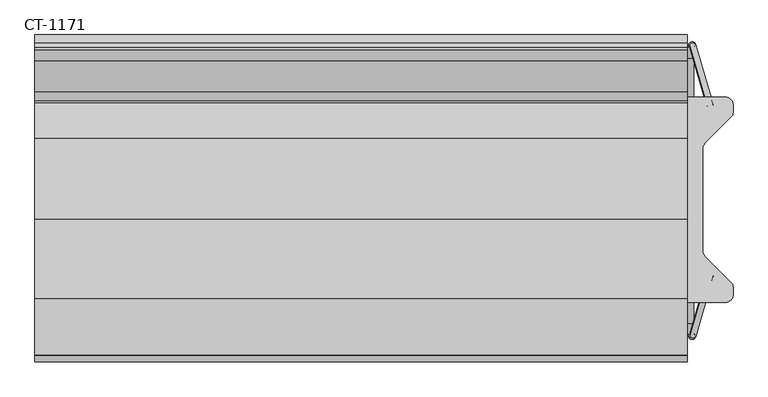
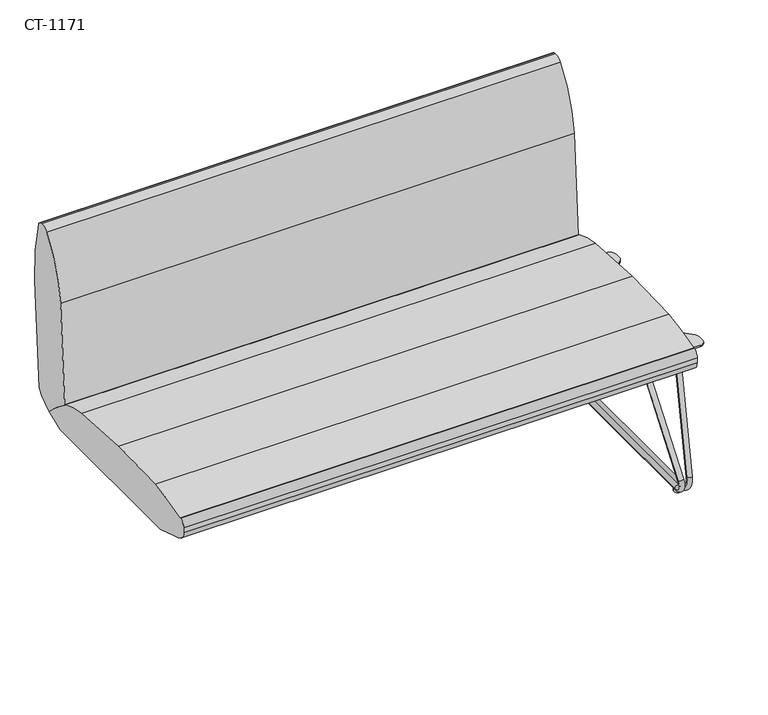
"""IFC4 building model written with IfcOpenShell, lengths in millimetres: furniture geometry, Davis_Furniture-Cantina-Low_Back_Straight : CT-1171."""

from ifc_helpers import new_model, si_unit, point, frame, frame_2d, origin, origin_with_axes, place, context, project, spatial, polyline, circle_curve, ellipse_curve, trimmed, segment, composite_curve, outline, extrude, source, transform, mapped, element, save
from ifc_brep_helpers import plane_surface, cylinder_surface, revolved_surface, advanced_brep


def ct_1171_189cd0db(model_context):
    return source(origin(), model_context, "Body", "SolidModel", [
        extrude(outline(composite_curve([segment(trimmed(circle_curve(frame_2d((709.0306813, 183.2173202)), 14.9820313), [point((709.0306813, 198.1993514))], [point((724.0127126, 183.2173202))], False, "CARTESIAN"), True, "CONTINUOUS"), segment(polyline([(724.0127126, 183.2173202), (724.0127126, 168.7877705)]), True, "CONTINUOUS"), segment(trimmed(circle_curve(frame_2d((710.0063569, 168.7877705)), 14.0063557), [point((724.0127126, 168.7877705))], [point((719.910346, 158.8837814))], False, "CARTESIAN"), True, "CONTINUOUS"), segment(polyline([(719.910346, 158.8837814), (669.3136664, 108.2871019)]), True, "CONTINUOUS"), segment(trimmed(circle_curve(frame_2d((679.6970876, 97.9036807)), 14.684375), [point((669.3136664, 108.2871019))], [point((665.0127126, 97.9036807))], True, "CARTESIAN"), True, "CONTINUOUS"), segment(polyline([(665.0127126, 97.9036807), (665.0127126, -101.5049781)]), True, "CONTINUOUS"), segment(trimmed(circle_curve(frame_2d((679.6970876, -101.5049781)), 14.684375), [point((665.0127126, -101.5049781))], [point((669.3136664, -111.8883992))], True, "CARTESIAN"), True, "CONTINUOUS"), segment(polyline([(669.3136664, -111.8883992), (719.910346, -162.4850787)]), True, "CONTINUOUS"), segment(trimmed(circle_curve(frame_2d((710.0063569, -172.3890678)), 14.0063557), [point((719.910346, -162.4850787))], [point((724.0127126, -172.3890678))], False, "CARTESIAN"), True, "CONTINUOUS"), segment(polyline([(724.0127126, -172.3890678), (724.0127126, -186.8186175)]), True, "CONTINUOUS"), segment(trimmed(circle_curve(frame_2d((709.0306813, -186.8186175)), 14.9820312), [point((724.0127126, -186.8186175))], [point((709.0306813, -201.8006488))], False, "CARTESIAN"), True, "CONTINUOUS"), segment(polyline([(709.0306813, -201.8006488), (560.9693187, -201.8006488)]), True, "CONTINUOUS"), segment(trimmed(circle_curve(frame_2d((560.9693187, -186.8440427)), 14.956606), [point((560.9693187, -201.8006488))], [point((546.0127127, -186.8440427))], False, "CARTESIAN"), True, "CONTINUOUS"), segment(polyline([(546.0127127, -186.8440427), (546.0127127, -172.3822284)]), True, "CONTINUOUS"), segment(trimmed(circle_curve(frame_2d((560.0025564, -172.3822284)), 13.9898438), [point((546.0127127, -172.3822284))], [point((550.110243, -162.489915))], False, "CARTESIAN"), True, "CONTINUOUS"), segment(polyline([(550.110243, -162.489915), (600.7117588, -111.8883992)]), True, "CONTINUOUS"), segment(trimmed(circle_curve(frame_2d((590.3283377, -101.5049781)), 14.684375), [point((600.7117588, -111.8883992))], [point((605.0127127, -101.5049781))], True, "CARTESIAN"), True, "CONTINUOUS"), segment(polyline([(605.0127127, -101.5049781), (605.0127127, 97.918921)]), True, "CONTINUOUS"), segment(trimmed(circle_curve(frame_2d((590.3651309, 97.918921)), 14.6475818), [point((605.0127127, 97.918921))], [point((600.7225353, 108.2763254))], True, "CARTESIAN"), True, "CONTINUOUS"), segment(polyline([(600.7225353, 108.2763254), (550.110243, 158.8886177)]), True, "CONTINUOUS"), segment(trimmed(circle_curve(frame_2d((560.0025564, 168.780931)), 13.9898437), [point((550.110243, 158.8886177))], [point((546.0127127, 168.780931))], False, "CARTESIAN"), True, "CONTINUOUS"), segment(polyline([(546.0127127, 168.780931), (546.0127127, 183.2427454)]), True, "CONTINUOUS"), segment(trimmed(circle_curve(frame_2d((560.9693187, 183.2427454)), 14.956606), [point((546.0127127, 183.2427454))], [point((560.9693187, 198.1993514))], False, "CARTESIAN"), True, "CONTINUOUS"), segment(polyline([(560.9693187, 198.1993514), (709.0306813, 198.1993514)]), True, "CONTINUOUS")], self_intersect=False)), frame((0.0, 0.0, 330.7277844), z_axis=(0.0, 0.0, 1.0), x_axis=(1.0, 0.0, 0.0)), (0.0, 0.0, 1.0), 3.1724353),
        advanced_brep(
        [(639.3476455, 298.4299122, 51.3019909), (651.7863293, 297.001732, 49.1737411), (686.3568189, 178.5251074, 330.7277844), (673.6568189, 180.8488451, 330.7277844), (634.9955294, 274.6441492, 15.8568497), (647.6955294, 274.6441492, 15.8568497), (634.9955294, -242.6856853, 15.8568497), (647.6955294, -242.6856853, 15.8568497), (639.3476455, -266.4714483, 51.3019909), (651.7863293, -265.0432681, 49.1737411), (673.6568189, -148.8903812, 330.7277844), (686.3568189, -146.5666435, 330.7277844)],
        [
            (0, 1, circle_curve(frame((645.5669874, 297.7158221, 50.237866), z_axis=(0.112455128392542, -0.3853952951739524, 0.9158735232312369), x_axis=(-0.9794239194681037, 0.11245512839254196, 0.16757872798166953)), 6.35)),
            (1, 2),
            (2, 3, ellipse_curve(frame((680.0068189, 179.6869762, 330.7277844), z_axis=(0.0, 0.0, -1.0), x_axis=(0.28011057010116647, -0.9599677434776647, 0.0)), 6.9332717, 6.35)),
            (3, 0),
            (1, 0, circle_curve(frame((645.5669874, 297.7158221, 50.237866), z_axis=(0.112455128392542, -0.3853952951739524, 0.9158735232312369), x_axis=(-0.9794239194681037, 0.11245512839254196, 0.16757872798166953)), 6.35)),
            (3, 2, ellipse_curve(frame((680.0068189, 179.6869762, 330.7277844), z_axis=(0.0, 0.0, -1.0), x_axis=(0.28011057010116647, -0.9599677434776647, 0.0)), 6.9332717, 6.35)),
            (0, 4, circle_curve(frame((638.1369549, 274.6441492, 41.4417072), z_axis=(-0.9925461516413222, 0.0, 0.12186934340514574), x_axis=(0.046967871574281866, 0.9227515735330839, 0.38252261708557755)), 25.7769953)),
            (4, 5, circle_curve(frame((641.3455294, 274.6441492, 15.8568497), z_axis=(0.0, 1.0, 0.0), x_axis=(-1.0, 0.0, 0.0)), 6.35)),
            (5, 1, circle_curve(frame((650.6483328, 274.6441492, 39.9055032), z_axis=(0.9925461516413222, 0.0, -0.12186934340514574), x_axis=(0.046967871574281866, 0.9227515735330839, 0.38252261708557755)), 24.2292547)),
            (5, 4, circle_curve(frame((641.3455294, 274.6441492, 15.8568497), z_axis=(0.0, 0.9999999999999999, 0.0), x_axis=(-1.0, 0.0, 0.0)), 6.35)),
            (4, 6),
            (6, 7, circle_curve(frame((641.3455294, -242.6856853, 15.8568497), z_axis=(0.0, 1.0, 0.0), x_axis=(-1.0, 0.0, 0.0)), 6.35)),
            (7, 5),
            (7, 6, circle_curve(frame((641.3455294, -242.6856853, 15.8568497), z_axis=(0.0, 1.0, 0.0), x_axis=(-1.0, 0.0, 0.0)), 6.35)),
            (6, 8, circle_curve(frame((638.1369549, -242.6856853, 41.4417072), z_axis=(-0.9925461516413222, 0.0, 0.12186934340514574), x_axis=(-0.12186934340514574, 0.0, -0.9925461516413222)), 25.7769953)),
            (8, 9, circle_curve(frame((645.5669874, -265.7573582, 50.237866), z_axis=(-0.11245512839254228, -0.3853952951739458, -0.9158735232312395), x_axis=(-0.9794239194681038, -0.1124551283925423, 0.16757872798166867)), 6.35)),
            (9, 7, circle_curve(frame((650.6483328, -242.6856853, 39.9055032), z_axis=(0.9925461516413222, 0.0, -0.12186934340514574), x_axis=(-0.12186934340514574, 0.0, -0.9925461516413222)), 24.2292547)),
            (9, 8, circle_curve(frame((645.5669874, -265.7573582, 50.237866), z_axis=(-0.11245512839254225, -0.3853952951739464, -0.9158735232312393), x_axis=(-0.9794239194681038, -0.11245512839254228, 0.16757872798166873)), 6.35)),
            (8, 10),
            (10, 11, ellipse_curve(frame((680.0068189, -147.7285123, 330.7277844), z_axis=(0.0, 0.0, -1.0), x_axis=(-0.28011057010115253, -0.9599677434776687, 0.0)), 6.9332717, 6.35)),
            (11, 9),
            (11, 10, ellipse_curve(frame((680.0068189, -147.7285123, 330.7277844), z_axis=(0.0, 0.0, -1.0), x_axis=(-0.28011057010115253, -0.9599677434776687, 0.0)), 6.9332717, 6.35)),
        ],
        [
            cylinder_surface(frame((681.1405198, 175.8016664, 339.9610379), z_axis=(0.112455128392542, -0.3853952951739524, 0.9158735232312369), x_axis=(-0.9794239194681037, 0.11245512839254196, 0.16757872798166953)), 6.35),
            revolved_surface(trimmed(ellipse_curve(frame((645.5669874, 297.7158221, 50.237866), z_axis=(0.11245512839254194, -0.38539529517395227, 0.9158735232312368), x_axis=(-0.9794239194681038, 0.112455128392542, 0.1675787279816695)), 6.35, 6.35), [point((639.3476455, 298.4299122, 51.3019909))], [point((651.7863293, 297.001732, 49.1737411))], True, "CARTESIAN"), (697.3582375, 274.6441492, 34.170248), (-0.9925461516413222, 0.0, 0.12186934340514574)),
            revolved_surface(trimmed(ellipse_curve(frame((645.5669874, 297.7158221, 50.237866), z_axis=(0.11245512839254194, -0.38539529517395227, 0.9158735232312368), x_axis=(-0.9794239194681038, 0.112455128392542, 0.1675787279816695)), 6.35, 6.35), [point((651.7863293, 297.001732, 49.1737411))], [point((639.3476455, 298.4299122, 51.3019909))], True, "CARTESIAN"), (697.3582375, 274.6441492, 34.170248), (-0.9925461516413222, 0.0, 0.12186934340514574)),
            cylinder_surface(frame((641.3455294, 274.6441492, 15.8568497), z_axis=(0.0, 1.0, 0.0), x_axis=(-1.0, 0.0, 0.0)), 6.35),
            revolved_surface(trimmed(ellipse_curve(frame((641.3455294, -242.6856853, 15.8568497), z_axis=(0.0, 1.0, 0.0), x_axis=(-1.0, 0.0, 0.0)), 6.35, 6.35), [point((634.9955294, -242.6856853, 15.8568497))], [point((647.6955294, -242.6856853, 15.8568497))], True, "CARTESIAN"), (697.3582375, -242.6856853, 34.170248), (-0.9925461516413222, 0.0, 0.12186934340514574)),
            revolved_surface(trimmed(ellipse_curve(frame((641.3455294, -242.6856853, 15.8568497), z_axis=(0.0, 1.0, 0.0), x_axis=(-1.0, 0.0, 0.0)), 6.35, 6.35), [point((647.6955294, -242.6856853, 15.8568497))], [point((634.9955294, -242.6856853, 15.8568497))], True, "CARTESIAN"), (697.3582375, -242.6856853, 34.170248), (-0.9925461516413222, 0.0, 0.12186934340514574)),
            cylinder_surface(frame((645.5669874, -265.7573582, 50.237866), z_axis=(-0.11245512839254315, -0.38539529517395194, -0.9158735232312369), x_axis=(-0.9794239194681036, -0.11245512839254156, 0.1675787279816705)), 6.35),
            plane_surface(frame((574.675, -168.170768, 330.7277844), z_axis=(0.0, 0.0, 1.0), x_axis=(0.0, 1.0, 0.0))),
        ],
        [
            (0, [[1, 2, 3, 4]]),
            (0, [[5, -4, 6, -2]]),
            (1, [[-1, 7, 8, 9]]),
            (2, [[-5, -9, 10, -7]]),
            (3, [[-8, 11, 12, 13]]),
            (3, [[-10, -13, 14, -11]]),
            (4, [[-12, 15, 16, 17]]),
            (5, [[-14, -17, 18, -15]]),
            (6, [[-16, 19, 20, 21]]),
            (6, [[-18, -21, 22, -19]]),
            (7, [[-3, -6]]),
            (7, [[-20, -22]]),
        ],
    ),
        advanced_brep(
        [(618.2136707, 297.001732, 49.1737411), (630.6523545, 298.4299122, 51.3019909), (596.3431811, 180.8488451, 330.7277844), (583.6431811, 178.5251074, 330.7277844), (622.3044706, 274.6441492, 15.8568497), (635.0044706, 274.6441492, 15.8568497), (622.3044706, -242.6856853, 15.8568497), (635.0044706, -242.6856853, 15.8568497), (618.2136707, -265.0432681, 49.1737411), (630.6523545, -266.4714483, 51.3019909), (583.6431811, -146.5666435, 330.7277844), (596.3431811, -148.8903812, 330.7277844)],
        [
            (0, 1, circle_curve(frame((624.4330126, 297.7158221, 50.237866), z_axis=(-0.11245512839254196, -0.38539529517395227, 0.915873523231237), x_axis=(0.9794239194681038, 0.11245512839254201, 0.1675787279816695)), 6.35)),
            (1, 2),
            (2, 3, ellipse_curve(frame((589.9931811, 179.6869762, 330.7277844), z_axis=(0.0, 0.0, -1.0), x_axis=(-0.28011057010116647, -0.9599677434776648, 0.0)), 6.9332717, 6.35)),
            (3, 0),
            (1, 0, circle_curve(frame((624.4330126, 297.7158221, 50.237866), z_axis=(-0.11245512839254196, -0.38539529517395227, 0.915873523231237), x_axis=(0.9794239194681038, 0.11245512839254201, 0.1675787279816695)), 6.35)),
            (3, 2, ellipse_curve(frame((589.9931811, 179.6869762, 330.7277844), z_axis=(0.0, 0.0, -1.0), x_axis=(-0.28011057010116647, -0.9599677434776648, 0.0)), 6.9332717, 6.35)),
            (0, 4, circle_curve(frame((619.3516672, 274.6441492, 39.9055032), z_axis=(-0.9925461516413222, 0.0, -0.12186934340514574), x_axis=(-0.046967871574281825, 0.9227515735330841, 0.38252261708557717)), 24.2292547)),
            (4, 5, circle_curve(frame((628.6544706, 274.6441492, 15.8568497), z_axis=(0.0, 1.0000000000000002, 0.0), x_axis=(1.0, 0.0, 0.0)), 6.35)),
            (5, 1, circle_curve(frame((631.8630451, 274.6441492, 41.4417072), z_axis=(0.9925461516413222, 0.0, 0.12186934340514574), x_axis=(-0.046967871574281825, 0.9227515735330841, 0.38252261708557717)), 25.7769953)),
            (5, 4, circle_curve(frame((628.6544706, 274.6441492, 15.8568497), z_axis=(0.0, 1.0000000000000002, 0.0), x_axis=(1.0, 0.0, 0.0)), 6.35)),
            (4, 6),
            (6, 7, circle_curve(frame((628.6544706, -242.6856853, 15.8568497), z_axis=(0.0, 1.0, 0.0), x_axis=(1.0, 0.0, 0.0)), 6.35)),
            (7, 5),
            (7, 6, circle_curve(frame((628.6544706, -242.6856853, 15.8568497), z_axis=(0.0, 1.0, 0.0), x_axis=(1.0, 0.0, 0.0)), 6.35)),
            (6, 8, circle_curve(frame((619.3516672, -242.6856853, 39.9055032), z_axis=(-0.9925461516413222, 0.0, -0.12186934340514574), x_axis=(0.12186934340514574, 0.0, -0.9925461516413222)), 24.2292547)),
            (8, 9, circle_curve(frame((624.4330126, -265.7573582, 50.237866), z_axis=(0.11245512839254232, -0.3853952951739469, -0.915873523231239), x_axis=(0.9794239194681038, -0.11245512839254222, 0.1675787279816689)), 6.35)),
            (9, 7, circle_curve(frame((631.8630451, -242.6856853, 41.4417072), z_axis=(0.9925461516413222, 0.0, 0.12186934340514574), x_axis=(0.12186934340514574, 0.0, -0.9925461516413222)), 25.7769953)),
            (9, 8, circle_curve(frame((624.4330126, -265.7573582, 50.237866), z_axis=(0.11245512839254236, -0.3853952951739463, -0.9158735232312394), x_axis=(0.9794239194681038, -0.11245512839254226, 0.1675787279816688)), 6.35)),
            (8, 10),
            (10, 11, ellipse_curve(frame((589.9931811, -147.7285123, 330.7277844), z_axis=(0.0, 0.0, -1.0), x_axis=(0.2801105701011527, -0.9599677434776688, 0.0)), 6.9332717, 6.35)),
            (11, 9),
            (11, 10, ellipse_curve(frame((589.9931811, -147.7285123, 330.7277844), z_axis=(0.0, 0.0, -1.0), x_axis=(0.2801105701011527, -0.9599677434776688, 0.0)), 6.9332717, 6.35)),
        ],
        [
            cylinder_surface(frame((588.8594802, 175.8016664, 339.9610379), z_axis=(-0.11245512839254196, -0.38539529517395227, 0.915873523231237), x_axis=(0.9794239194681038, 0.11245512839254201, 0.1675787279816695)), 6.35),
            revolved_surface(trimmed(ellipse_curve(frame((624.4330126, 297.7158221, 50.237866), z_axis=(-0.11245512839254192, -0.385395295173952, 0.9158735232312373), x_axis=(0.9794239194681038, 0.11245512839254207, 0.1675787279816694)), 6.35, 6.35), [point((618.2136707, 297.001732, 49.1737411))], [point((630.6523545, 298.4299122, 51.3019909))], True, "CARTESIAN"), (572.6417625, 274.6441492, 34.170248), (-0.9925461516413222, 0.0, -0.12186934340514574)),
            revolved_surface(trimmed(ellipse_curve(frame((624.4330126, 297.7158221, 50.237866), z_axis=(-0.11245512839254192, -0.385395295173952, 0.9158735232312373), x_axis=(0.9794239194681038, 0.11245512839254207, 0.1675787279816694)), 6.35, 6.35), [point((630.6523545, 298.4299122, 51.3019909))], [point((618.2136707, 297.001732, 49.1737411))], True, "CARTESIAN"), (572.6417625, 274.6441492, 34.170248), (-0.9925461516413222, 0.0, -0.12186934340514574)),
            cylinder_surface(frame((628.6544706, 274.6441492, 15.8568497), z_axis=(0.0, 1.0, 0.0), x_axis=(1.0, 0.0, 0.0)), 6.35),
            revolved_surface(trimmed(ellipse_curve(frame((628.6544706, -242.6856853, 15.8568497), z_axis=(0.0, 1.0, 0.0), x_axis=(1.0, 0.0, 0.0)), 6.35, 6.35), [point((622.3044706, -242.6856853, 15.8568497))], [point((635.0044706, -242.6856853, 15.8568497))], True, "CARTESIAN"), (572.6417625, -242.6856853, 34.170248), (-0.9925461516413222, 0.0, -0.12186934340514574)),
            revolved_surface(trimmed(ellipse_curve(frame((628.6544706, -242.6856853, 15.8568497), z_axis=(0.0, 1.0, 0.0), x_axis=(1.0, 0.0, 0.0)), 6.35, 6.35), [point((635.0044706, -242.6856853, 15.8568497))], [point((622.3044706, -242.6856853, 15.8568497))], True, "CARTESIAN"), (572.6417625, -242.6856853, 34.170248), (-0.9925461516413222, 0.0, -0.12186934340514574)),
            cylinder_surface(frame((624.4330126, -265.7573582, 50.237866), z_axis=(0.11245512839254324, -0.38539529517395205, -0.9158735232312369), x_axis=(0.9794239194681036, -0.11245512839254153, 0.16757872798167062)), 6.35),
            plane_surface(frame((574.675, -168.170768, 330.7277844), z_axis=(0.0, 0.0, 1.0), x_axis=(0.0, 1.0, 0.0))),
        ],
        [
            (0, [[1, 2, 3, 4]]),
            (0, [[5, -4, 6, -2]]),
            (1, [[-1, 7, 8, 9]]),
            (2, [[-5, -9, 10, -7]]),
            (3, [[-8, 11, 12, 13]]),
            (3, [[-10, -13, 14, -11]]),
            (4, [[-12, 15, 16, 17]]),
            (5, [[-14, -17, 18, -15]]),
            (6, [[-16, 19, 20, 21]]),
            (6, [[-18, -21, 22, -19]]),
            (7, [[-3, -6]]),
            (7, [[-20, -22]]),
        ],
    ),
        extrude(outline(composite_curve([segment(trimmed(circle_curve(frame_2d((635.0, -233.1061316)), 8.5328125), [point((626.4671875, -233.1061316))], [point((643.5328125, -233.1061316))], False, "CARTESIAN"), True, "CONTINUOUS"), segment(trimmed(circle_curve(frame_2d((635.0, -233.1061316)), 8.5328125), [point((643.5328125, -233.1061316))], [point((626.4671875, -233.1061316))], False, "CARTESIAN"), True, "CONTINUOUS")], self_intersect=False)), origin_with_axes(), (0.0, 0.0, 1.0), 9.5168817),
        extrude(outline(composite_curve([segment(trimmed(circle_curve(frame_2d((635.0, 265.0645955)), 8.5328125), [point((626.4671875, 265.0645955))], [point((643.5328125, 265.0645955))], False, "CARTESIAN"), True, "CONTINUOUS"), segment(trimmed(circle_curve(frame_2d((635.0, 265.0645955)), 8.5328125), [point((643.5328125, 265.0645955))], [point((626.4671875, 265.0645955))], False, "CARTESIAN"), True, "CONTINUOUS")], self_intersect=False)), origin_with_axes(), (0.0, 0.0, 1.0), 9.5168817),
        extrude(outline(composite_curve([segment(trimmed(circle_curve(frame_2d((474.1493206, 647.1766808)), 265.6354781), [point((209.1609171, 665.7064751))], [point((268.5355522, 815.358682))], False, "CARTESIAN"), True, "CONTINUOUS"), segment(trimmed(circle_curve(frame_2d((288.1962909, 799.2771598)), 25.4), [point((268.5355522, 815.358682))], [point((289.7203272, 824.6313964))], False, "CARTESIAN"), True, "CONTINUOUS"), segment(trimmed(circle_curve(frame_2d((287.8787488, 793.9944533)), 30.6922416), [point((289.7203272, 824.6313964))], [point((294.4061536, 823.984563))], False, "CARTESIAN"), True, "CONTINUOUS"), segment(trimmed(circle_curve(frame_2d((291.9702432, 812.7927917)), 11.4537943), [point((294.4061536, 823.984563))], [point((302.9831943, 815.9399032))], False, "CARTESIAN"), True, "CONTINUOUS"), segment(trimmed(circle_curve(frame_2d((-137.8318519, 689.9705732)), 458.4606603), [point((302.9831943, 815.9399032))], [point((319.5120213, 657.9899742))], False, "CARTESIAN"), True, "CONTINUOUS"), segment(polyline([(319.5120213, 657.9899742), (300.7190563, 389.2380528)]), True, "CONTINUOUS"), segment(trimmed(circle_curve(frame_2d((220.5881555, 443.6723211)), 96.8713106), [point((300.7190563, 389.2380528))], [point((259.2429572, 354.8474534))], False, "CARTESIAN"), True, "CONTINUOUS"), segment(polyline([(259.2429572, 354.8474534), (257.534578, 354.104001)]), True, "CONTINUOUS"), segment(trimmed(circle_curve(frame_2d((-1.5780479, 110.6982429)), 355.5076876), [point((257.534578, 354.104001))], [point((191.236527, 409.3757541))], True, "CARTESIAN"), True, "CONTINUOUS"), segment(polyline([(191.236527, 409.3757541), (209.1609171, 665.7064751)]), True, "CONTINUOUS")], self_intersect=False)), frame((-635.0, 0.0, 0.0), z_axis=(1.0, 0.0, 0.0), x_axis=(0.0, 1.0, 0.0)), (0.0, 0.0, 1.0), 1270.0),
        extrude(outline(composite_curve([segment(trimmed(circle_curve(frame_2d((-298.45, 397.7963214)), 19.05), [point((-317.5, 397.7963214))], [point((-305.7075305, 415.40969))], False, "CARTESIAN"), True, "CONTINUOUS"), segment(trimmed(circle_curve(frame_2d((-158.75, 58.7570862)), 385.7429138), [point((-305.7075305, 415.40969))], [point((-303.9688287, 416.1211685))], False, "CARTESIAN"), True, "CONTINUOUS"), segment(trimmed(circle_curve(frame_2d((-152.4794636, -82.1541678)), 520.7949103), [point((-303.9688287, 416.1211685))], [point((-195.0051963, 436.9016101))], False, "CARTESIAN"), True, "CONTINUOUS"), segment(trimmed(circle_curve(frame_2d((-43.2851266, -1414.9460545)), 1858.0524085), [point((-195.0051963, 436.9016101))], [point((-40.3038638, 443.1039622))], False, "CARTESIAN"), True, "CONTINUOUS"), segment(trimmed(circle_curve(frame_2d((-42.4075795, -868.0213401)), 1311.12699), [point((-40.3038638, 443.1039622))], [point((118.3875039, 433.208434))], False, "CARTESIAN"), True, "CONTINUOUS"), segment(trimmed(circle_curve(frame_2d((89.1279399, 196.42622)), 238.5831908), [point((118.3875039, 433.208434))], [point((186.7525399, 414.121825))], False, "CARTESIAN"), True, "CONTINUOUS"), segment(trimmed(circle_curve(frame_2d((177.0623361, 392.5133904)), 23.6817334), [point((186.7525399, 414.121825))], [point((192.2244211, 410.7050279))], False, "CARTESIAN"), True, "CONTINUOUS"), segment(polyline([(192.2244211, 410.7050279), (259.2429572, 354.8474534), (211.060536, 333.8794297), (-217.9078165, 333.8794297), (-278.4661162, 352.9828937)]), True, "CONTINUOUS"), segment(trimmed(circle_curve(frame_2d((-183.2470513, 654.8289187)), 316.5085989), [point((-278.4661162, 352.9828937))], [point((-294.9895137, 358.7017243))], False, "CARTESIAN"), True, "CONTINUOUS"), segment(trimmed(circle_curve(frame_2d((-272.8348429, 417.4135188)), 62.7527231), [point((-294.9895137, 358.7017243))], [point((-306.6952536, 364.5800367))], False, "CARTESIAN"), True, "CONTINUOUS"), segment(trimmed(circle_curve(frame_2d((-294.0326067, 384.3379698)), 23.4673933), [point((-306.6952536, 364.5800367))], [point((-317.5, 384.3379698))], False, "CARTESIAN"), True, "CONTINUOUS"), segment(polyline([(-317.5, 384.3379698), (-317.5, 397.7963214)]), True, "CONTINUOUS")], self_intersect=False)), frame((-635.0, 0.0, 0.0), z_axis=(1.0, 0.0, 0.0), x_axis=(0.0, 1.0, 0.0)), (0.0, 0.0, 1.0), 1270.0),
    ])


if __name__ == "__main__":
    model = new_model("IFC4")
    model_context = context("Model", 3, world=origin())
    ifc_project = project(units=[si_unit("LENGTHUNIT", "METRE", prefix="MILLI")], contexts=[model_context])
    site = spatial("IfcSite", under=ifc_project)
    building = spatial("IfcBuilding", under=site)
    placement = place(None, origin())
    ct_1171_shape = ct_1171_189cd0db(model_context)
    element("IfcFurniture", 1, ObjectType="Davis_Furniture-Cantina-Low_Back_Straight : CT-1171", at=placement, inside=building, context=model_context, shape_type="MappedRepresentation", body=[
        mapped(ct_1171_shape, transform((0.0, 0.0, 0.0), x_axis=(1.0, 0.0, 0.0), y_axis=(0.0, 1.0, 0.0), z_axis=(0.0, 0.0, 1.0))),
    ])
    save(model, "model.ifc")
